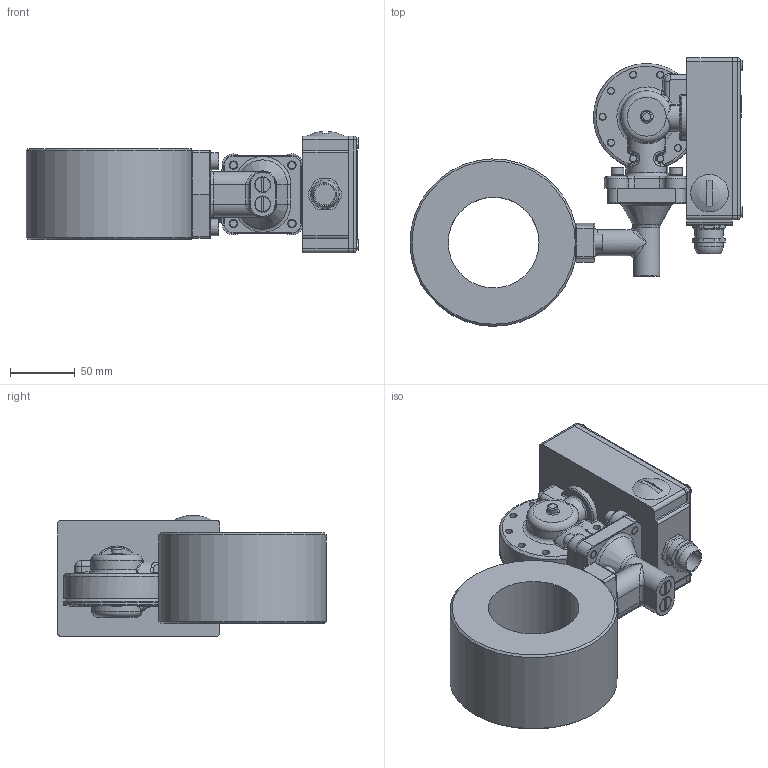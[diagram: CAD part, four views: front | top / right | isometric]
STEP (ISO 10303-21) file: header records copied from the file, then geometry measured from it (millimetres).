
FILE_DESCRIPTION(/* description */ ('Alibre Inc.'),/* implementation_level */ '2;1');
FILE_NAME(/* name */ 'export0',/* time_stamp */ '2012-10-15T13:31:51+02:00',/* author */ (''),/* organization */ (''),/* preprocessor_version */ 'ST-DEVELOPER v14',/* originating_system */ 'Alibre',/* authorisation */ '');
FILE_SCHEMA (('CONFIG_CONTROL_DESIGN'));
Length unit declared in the file: centimetre
Products named in the file (13): ID_1; ID_2; ID_3; ID_4; ID_5; ID_6; ID_7; ID_8
Bounding box: 256 x 207.04 x 93.66 mm (x, y, z)
Volume: 1035532.9 mm3; surface area: 232737 mm2
Topology: 29 solids, 29 shells, 1094 faces, 2576 edges, 1623 vertices
Faces by surface type: plane 540, cylinder 251, bspline 168, torus 65, cone 65, sphere 5
Full cylindrical faces by diameter (mm): 5 x23, 5.5 x18, 6 x12, 6.038 x2, 6.5 x4, 7.5 x1, 8 x18, 8.3 x9, 8.5 x2, 8.7 x2, 9.6 x4, 10 x4, 11.75 x2, 11.85 x1, 12 x2, 13 x2, 14 x2, 16 x1, 17.966 x1, 22 x2, 22.5 x4, 31 x1, 32 x1, 47 x1, 56 x2, 70 x1
Entity records: 34385 total; most frequent: CARTESIAN_POINT 14011, ORIENTED_EDGE 3922, DIRECTION 3181, EDGE_CURVE 1961, VERTEX_POINT 1309, AXIS2_PLACEMENT_3D 1303, EDGE_LOOP 1144, FACE_BOUND 1144
